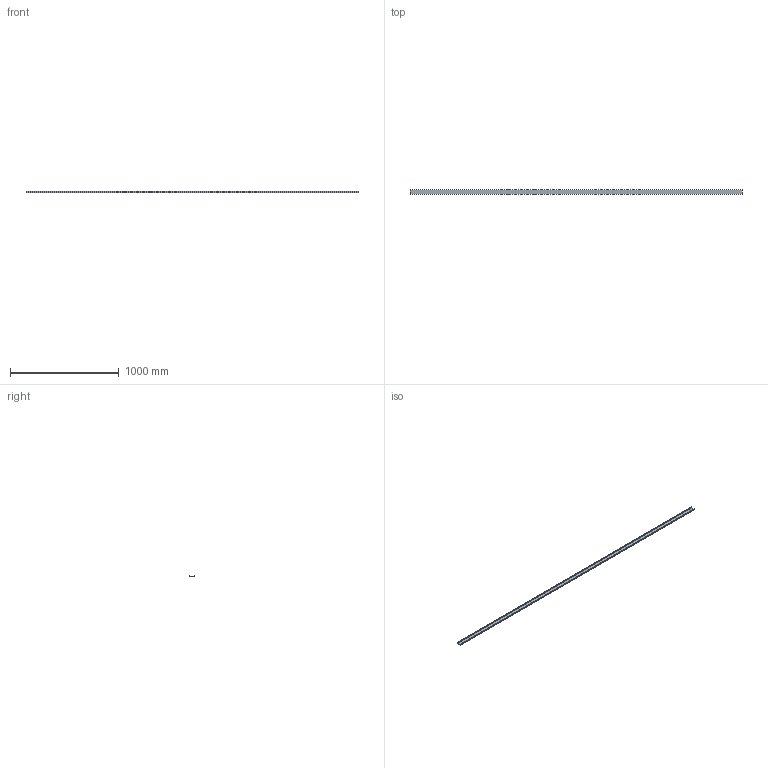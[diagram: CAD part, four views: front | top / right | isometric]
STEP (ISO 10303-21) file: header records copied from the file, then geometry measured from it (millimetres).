
FILE_DESCRIPTION(/* description */ (''),/* implementation_level */ '2;1');
FILE_NAME(/* name */ 'M06J.stp',/* time_stamp */ '2025-02-27T16:37:38-05:00',/* author */ ('samuel.gauthier'),/* organization */ (''),/* preprocessor_version */ 'ST-DEVELOPER v20',/* originating_system */ 'Autodesk Inventor 2025',/* authorisation */ '');
FILE_SCHEMA (('AUTOMOTIVE_DESIGN { 1 0 10303 214 3 1 1 }'));
Length unit declared in the file: inch
Products named in the file (1): Moulure de Finition 1.5625
Bounding box: 3048 x 41.27 x 12.61 mm (x, y, z)
Volume: 121288.4 mm3; surface area: 478021.3 mm2
Topology: 1 solids, 1 shells, 22 faces, 60 edges, 40 vertices
Faces by surface type: plane 14, cylinder 8
Entity records: 745 total; most frequent: CARTESIAN_POINT 123, DIRECTION 122, ORIENTED_EDGE 120, EDGE_CURVE 60, LINE 44, VECTOR 44, VERTEX_POINT 40, AXIS2_PLACEMENT_3D 39
